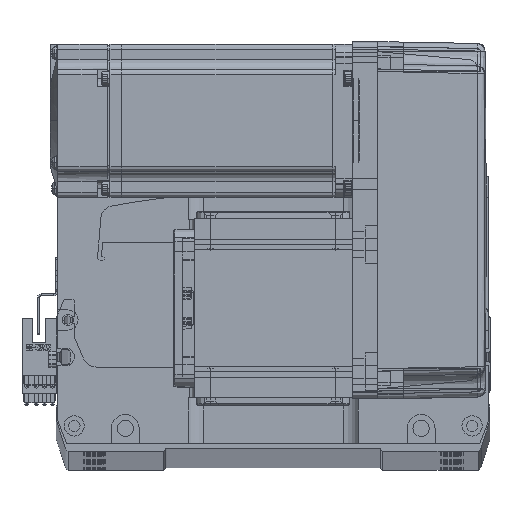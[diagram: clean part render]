
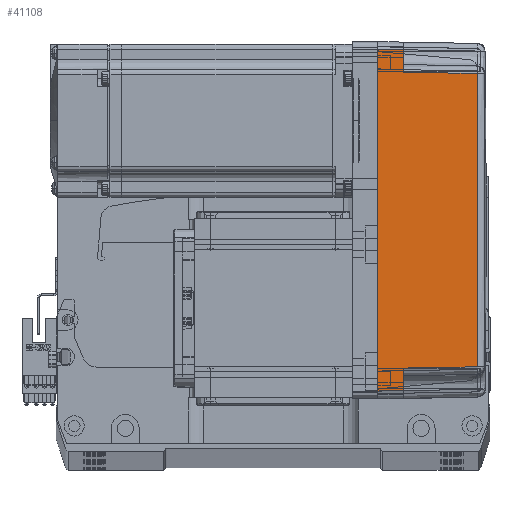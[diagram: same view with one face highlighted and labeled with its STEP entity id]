
A CAD part, top view. The second image highlights one B-rep face of the part: STEP entity #41108.
In plain terms, the highlighted planar face has unit normal (0.018, 0, 1) as drawn and (0, -1, 0.017) by its records, which use the part's own axes.
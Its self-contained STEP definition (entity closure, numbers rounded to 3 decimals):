
#68 = VERTEX_POINT ( 'NONE', #18504 ) ;
#1948 = VERTEX_POINT ( 'NONE', #70007 ) ;
#3035 = LINE ( 'NONE', #35437, #15846 ) ;
#4445 = ORIENTED_EDGE ( 'NONE', *, *, #50370, .T. ) ;
#10144 = LINE ( 'NONE', #47825, #68511 ) ;
#10186 = EDGE_CURVE ( 'NONE', #37859, #1948, #71532, .T. ) ;
#10429 = EDGE_CURVE ( 'NONE', #33149, #14933, #3035, .T. ) ;
#11651 = CARTESIAN_POINT ( 'NONE',  ( 0., -36., 0. ) ) ;
#11867 = CARTESIAN_POINT ( 'NONE',  ( 67., -36., 0. ) ) ;
#12857 = DIRECTION ( 'NONE',  ( -0.017, -0.017, -1. ) ) ;
#13283 = B_SPLINE_CURVE_WITH_KNOTS ( 'NONE', 3,
 ( #19874, #72087, #13468, #19625 ),
 .UNSPECIFIED., .F., .F.,
 ( 4, 4 ),
 ( 0., 1. ),
 .UNSPECIFIED. ) ;
#13468 = CARTESIAN_POINT ( 'NONE',  ( -19.165, -35.316, 39.181 ) ) ;
#14933 = VERTEX_POINT ( 'NONE', #56554 ) ;
#15846 = VECTOR ( 'NONE', #71134, 1000. ) ;
#16330 = ORIENTED_EDGE ( 'NONE', *, *, #45665, .T. ) ;
#17786 = DIRECTION ( 'NONE',  ( -0.017, 0.017, 1. ) ) ;
#18394 = ORIENTED_EDGE ( 'NONE', *, *, #61692, .T. ) ;
#18504 = CARTESIAN_POINT ( 'NONE',  ( -57.495, -35.32, 38.985 ) ) ;
#19625 = CARTESIAN_POINT ( 'NONE',  ( -57.495, -35.32, 38.985 ) ) ;
#19874 = CARTESIAN_POINT ( 'NONE',  ( 57.495, -35.32, 38.985 ) ) ;
#24568 = AXIS2_PLACEMENT_3D ( 'NONE', #33043, #74399, #44558 ) ;
#24693 = CARTESIAN_POINT ( 'NONE',  ( 67., -36., 0. ) ) ;
#25716 = CARTESIAN_POINT ( 'NONE',  ( -66.959, -35.958, 2.39 ) ) ;
#25855 = VECTOR ( 'NONE', #32241, 1000. ) ;
#26606 = CARTESIAN_POINT ( 'NONE',  ( 70., -35.825, 10. ) ) ;
#29691 = ORIENTED_EDGE ( 'NONE', *, *, #10186, .T. ) ;
#31992 = CARTESIAN_POINT ( 'NONE',  ( 58., -35.825, 10. ) ) ;
#32241 = DIRECTION ( 'NONE',  ( -0.017, 0.017, 1. ) ) ;
#33043 = CARTESIAN_POINT ( 'NONE',  ( 70., -36., 0. ) ) ;
#33149 = VERTEX_POINT ( 'NONE', #40946 ) ;
#35173 = EDGE_CURVE ( 'NONE', #56836, #14933, #46358, .T. ) ;
#35437 = CARTESIAN_POINT ( 'NONE',  ( 70., -35.825, 10. ) ) ;
#36493 = CARTESIAN_POINT ( 'NONE',  ( 66.826, -35.825, 10. ) ) ;
#37310 = EDGE_CURVE ( 'NONE', #50227, #56836, #71318, .T. ) ;
#37859 = VERTEX_POINT ( 'NONE', #36493 ) ;
#40372 = LINE ( 'NONE', #31992, #25855 ) ;
#40675 = ORIENTED_EDGE ( 'NONE', *, *, #10429, .T. ) ;
#40946 = CARTESIAN_POINT ( 'NONE',  ( -58., -35.825, 10. ) ) ;
#41071 = EDGE_LOOP ( 'NONE', ( #49597, #29691, #4445, #16330, #18394, #40675, #60540, #43275 ) ) ;
#41108 = ADVANCED_FACE ( 'NONE', ( #73329 ), #73645, .T. ) ;
#43275 = ORIENTED_EDGE ( 'NONE', *, *, #37310, .F. ) ;
#44460 = DIRECTION ( 'NONE',  ( -1., 0., 0. ) ) ;
#44558 = DIRECTION ( 'NONE',  ( 0., -0.017, -1. ) ) ;
#45665 = EDGE_CURVE ( 'NONE', #47604, #68, #13283, .T. ) ;
#46358 = LINE ( 'NONE', #25716, #67325 ) ;
#47604 = VERTEX_POINT ( 'NONE', #56062 ) ;
#47825 = CARTESIAN_POINT ( 'NONE',  ( -57.495, -35.32, 38.985 ) ) ;
#49597 = ORIENTED_EDGE ( 'NONE', *, *, #52687, .T. ) ;
#50227 = VERTEX_POINT ( 'NONE', #24693 ) ;
#50370 = EDGE_CURVE ( 'NONE', #1948, #47604, #40372, .T. ) ;
#51869 = CARTESIAN_POINT ( 'NONE',  ( -67., -36., 0. ) ) ;
#52687 = EDGE_CURVE ( 'NONE', #50227, #37859, #56452, .T. ) ;
#54173 = VECTOR ( 'NONE', #44460, 1000. ) ;
#54649 = VECTOR ( 'NONE', #17786, 1000. ) ;
#55698 = DIRECTION ( 'NONE',  ( 0.017, 0.017, 1. ) ) ;
#56062 = CARTESIAN_POINT ( 'NONE',  ( 57.495, -35.32, 38.985 ) ) ;
#56452 = LINE ( 'NONE', #11867, #54649 ) ;
#56554 = CARTESIAN_POINT ( 'NONE',  ( -66.826, -35.825, 10. ) ) ;
#56836 = VERTEX_POINT ( 'NONE', #51869 ) ;
#60540 = ORIENTED_EDGE ( 'NONE', *, *, #35173, .F. ) ;
#61692 = EDGE_CURVE ( 'NONE', #68, #33149, #10144, .T. ) ;
#67325 = VECTOR ( 'NONE', #55698, 1000. ) ;
#68511 = VECTOR ( 'NONE', #12857, 1000. ) ;
#69271 = DIRECTION ( 'NONE',  ( -1., 0., 0. ) ) ;
#70007 = CARTESIAN_POINT ( 'NONE',  ( 58., -35.825, 10. ) ) ;
#71134 = DIRECTION ( 'NONE',  ( -1., 0., 0. ) ) ;
#71318 = LINE ( 'NONE', #11651, #72194 ) ;
#71532 = LINE ( 'NONE', #26606, #54173 ) ;
#72087 = CARTESIAN_POINT ( 'NONE',  ( 19.165, -35.316, 39.181 ) ) ;
#72194 = VECTOR ( 'NONE', #69271, 1000. ) ;
#73329 = FACE_OUTER_BOUND ( 'NONE', #41071, .T. ) ;
#73645 = PLANE ( 'NONE',  #24568 ) ;
#74399 = DIRECTION ( 'NONE',  ( 0., -1., 0.017 ) ) ;
